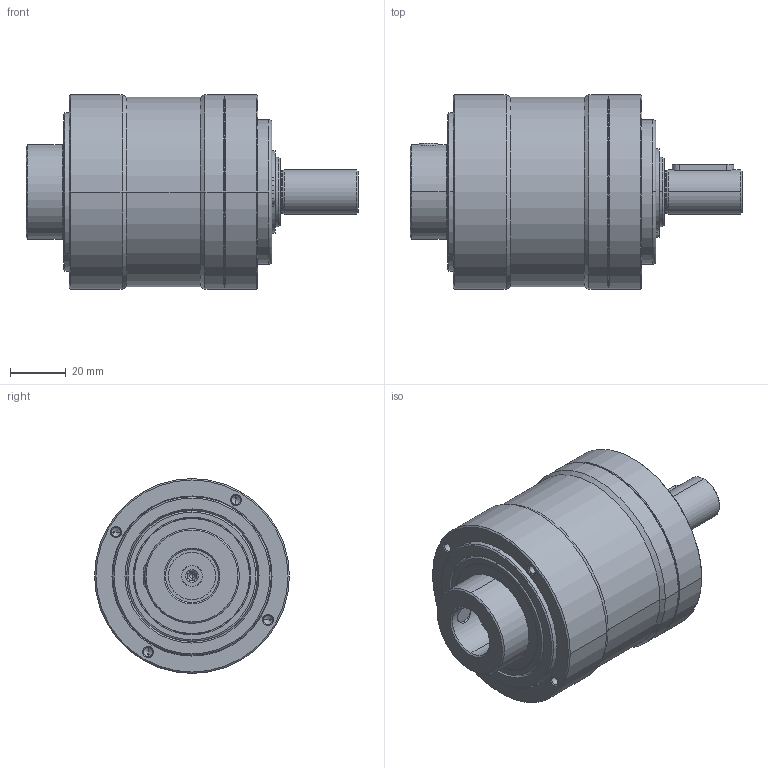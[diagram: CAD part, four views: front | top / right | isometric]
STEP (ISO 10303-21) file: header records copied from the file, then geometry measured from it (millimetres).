
FILE_DESCRIPTION (( 'STEP AP214' ), '1' );
FILE_NAME ('RPL070 1-ST.STEP', '2023-07-04T14:28:03', ( '' ), ( '' ), 'SwSTEP 2.0', 'SolidWorks 2021', '' );
FILE_SCHEMA (( 'AUTOMOTIVE_DESIGN' ));
Length unit declared in the file: millimetre
Products named in the file (1): RPL070 1-ST
Bounding box: 119.3 x 70 x 70 mm (x, y, z)
Volume: 281837.7 mm3; surface area: 32044.2 mm2
Topology: 3 solids, 3 shells, 222 faces, 495 edges, 287 vertices
Faces by surface type: cone 86, cylinder 81, plane 43, torus 12
Entity records: 8392 total; most frequent: CARTESIAN_POINT 1185, DIRECTION 1167, ORIENTED_EDGE 946, AXIS2_PLACEMENT_3D 483, EDGE_CURVE 473, VERTEX_POINT 287, CIRCLE 260, EDGE_LOOP 254
